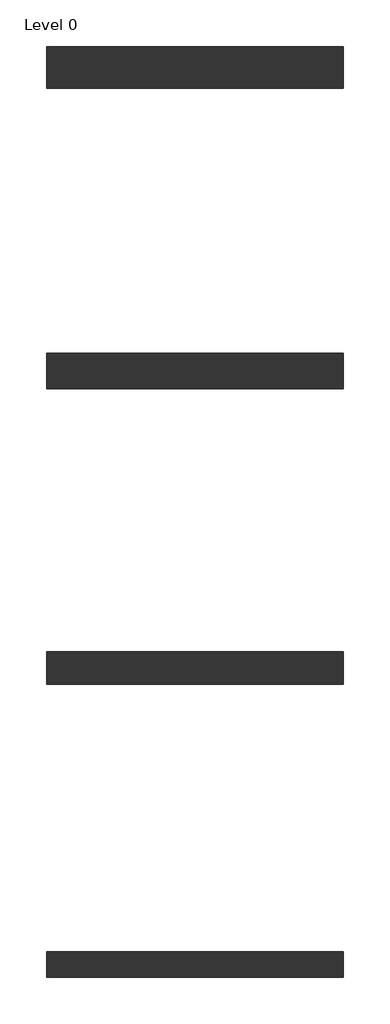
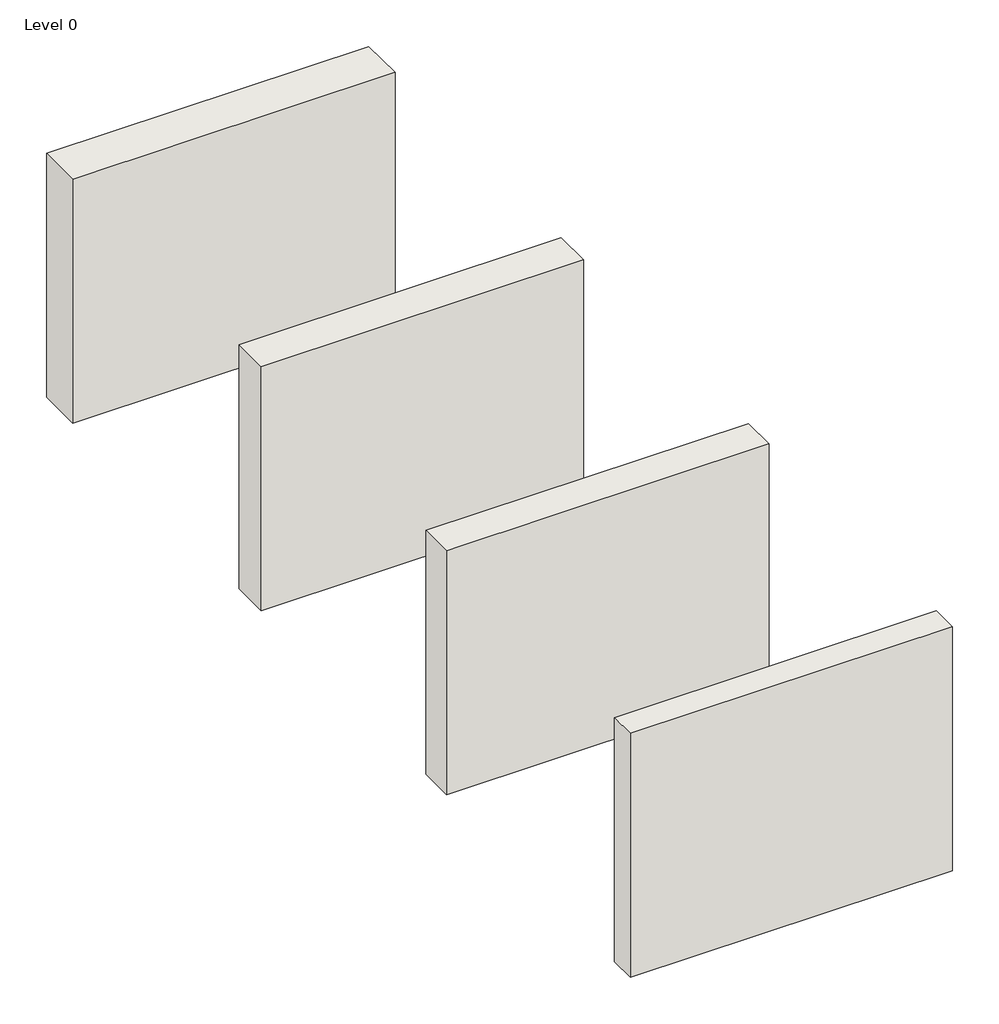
# One storey: 4 walls.
"""IFC4 building model written with IfcOpenShell, lengths in millimetres."""

from ifc_helpers import new_model, si_unit, origin, origin_with_axes, place, context, project, spatial, polyline, outline, extrude, element, save

model = new_model("IFC4")

# Units and contexts
model_context = context("Model", 3, world=origin())
ifc_project = project(units=[si_unit("LENGTHUNIT", "METRE", prefix="MILLI")], contexts=[model_context])

# Site, building, storey
site = spatial("IfcSite", under=ifc_project)
building = spatial("IfcBuilding", under=site)
storey = spatial("IfcBuildingStorey", under=building, Name="Level 0", Elevation=0.0)

# Walls
placement = place(None, origin())
element("IfcWall", 1, ObjectType="NBS_HHUK_AutoclavedAeratedConcreteBlocks_StandardGrade_CelconFoundationBlock_215mm", at=placement, inside=storey, context=model_context, shape_type="SweptSolid", body=[
    extrude(outline(polyline([(4758.592582, -1742.487111), (2258.592582, -1742.487111), (2258.592582, -1527.487111), (4758.592582, -1527.487111), (4758.592582, -1742.487111)])), origin_with_axes(), (0.0, 0.0, 1.0), 2000.0),
])
element("IfcWall", 2, ObjectType="NBS_HHUK_AutoclavedAeratedConcreteBlocks_StandardGrade_CelconFoundationBlock_275mm", at=placement, inside=storey, context=model_context, shape_type="SweptSolid", body=[
    extrude(outline(polyline([(4758.592582, 727.512889), (2258.592582, 727.512889), (2258.592582, 1002.512889), (4758.592582, 1002.512889), (4758.592582, 727.512889)])), origin_with_axes(), (0.0, 0.0, 1.0), 2000.0),
])
element("IfcWall", 3, ObjectType="NBS_HHUK_AutoclavedAeratedConcreteBlocks_StandardGrade_CelconFoundationBlock_300mm", at=placement, inside=storey, context=model_context, shape_type="SweptSolid", body=[
    extrude(outline(polyline([(4758.592582, 3215.012889), (2258.592582, 3215.012889), (2258.592582, 3515.012889), (4758.592582, 3515.012889), (4758.592582, 3215.012889)])), origin_with_axes(), (0.0, 0.0, 1.0), 2000.0),
])
element("IfcWall", 4, ObjectType="NBS_HHUK_AutoclavedAeratedConcreteBlocks_StandardGrade_CelconFoundationBlock_355mm", at=placement, inside=storey, context=model_context, shape_type="SweptSolid", body=[
    extrude(outline(polyline([(4758.592582, 5750.012889), (2258.592582, 5750.012889), (2258.592582, 6100.012889), (4758.592582, 6100.012889), (4758.592582, 5750.012889)])), origin_with_axes(), (0.0, 0.0, 1.0), 2000.0),
])

save(model, "model.ifc")
